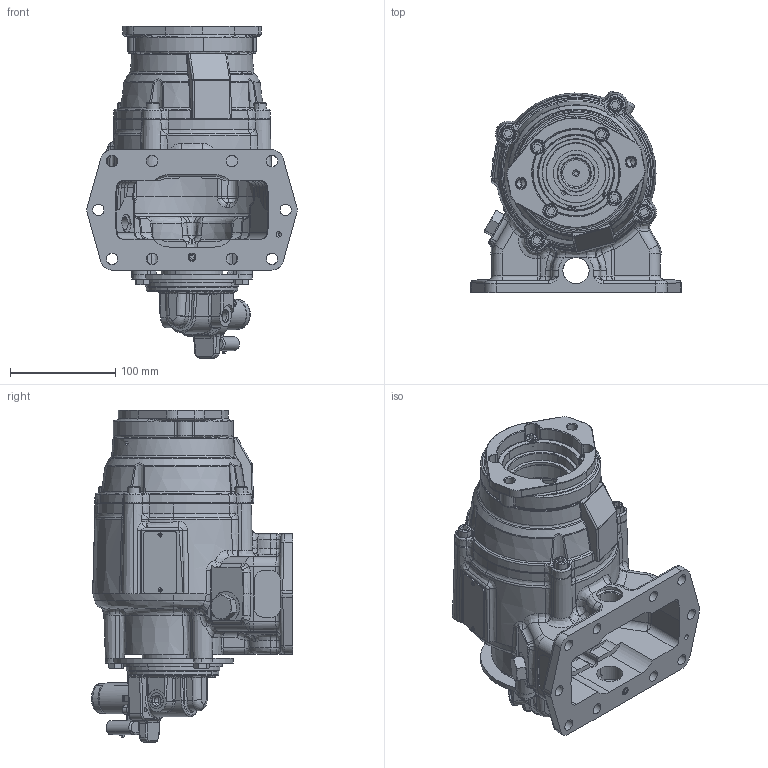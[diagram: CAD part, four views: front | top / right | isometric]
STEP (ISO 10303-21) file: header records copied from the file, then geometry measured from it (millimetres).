
FILE_DESCRIPTION (( 'STEP AP203' ), '1' );
FILE_NAME ('A20-A10XX-HX5AAPX.STEP', '2023-03-28T19:03:55', ( '' ), ( '' ), 'SwSTEP 2.0', 'SolidWorks 2021', '' );
FILE_SCHEMA (( 'CONFIG_CONTROL_DESIGN' ));
Length unit declared in the file: inch
Products named in the file (14): 15T65391DB3; 25T35999TMP; SC-301_25T37702; 19T62950; MD1_5Arrangement; DropInSolenoidRearCoverAssembly; 47T6123_15T43431_DUST CAP INSTALLED; 14T65653; 19T36588_19T36588; 12T36701; 15T43431_FOR CLAMPS; 35T40860; A20-A10XX-HX5AAPX; 47T6123TMP_Solenoid
Assembly tree (21 placements, depth 4):
  A20-A10XX-HX5AAPX
    MD1_5Arrangement
    19T36588_19T36588  x8
    25T35999TMP
    15T65391DB3
    DropInSolenoidRearCoverAssembly
      47T6123TMP_Solenoid
      47T6123_15T43431_DUST CAP INSTALLED
        15T43431_FOR CLAMPS
        19T62950  x2
        12T36701
        SC-301_25T37702
    14T65653
    35T40860
Bounding box: 199.82 x 191.39 x 315.55 mm (x, y, z)
Volume: 1555531.9 mm3; surface area: 440907.6 mm2
Topology: 37 solids, 37 shells, 3296 faces, 8071 edges, 4899 vertices
Faces by surface type: plane 977, bspline 837, cylinder 764, cone 386, torus 296, sphere 36
Entity records: 148453 total; most frequent: CARTESIAN_POINT 78161, ORIENTED_EDGE 15174, DIRECTION 13253, EDGE_CURVE 7587, AXIS2_PLACEMENT_3D 5276, VERTEX_POINT 4667, EDGE_LOOP 3392, FACE_OUTER_BOUND 3128
